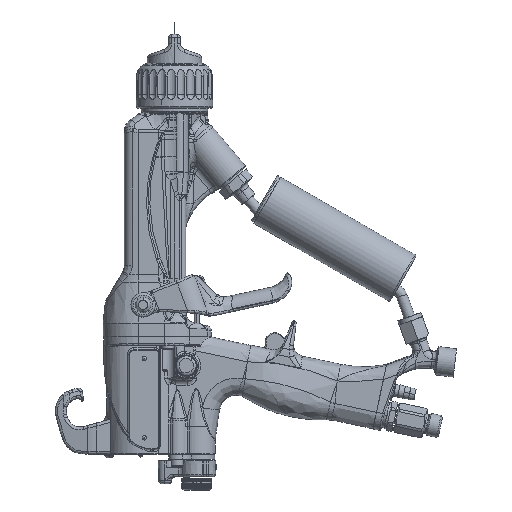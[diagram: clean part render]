
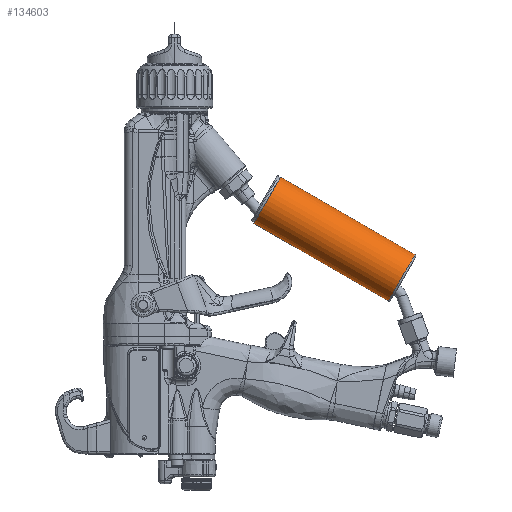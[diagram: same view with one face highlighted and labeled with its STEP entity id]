
A CAD part, left-side view. The second image highlights one B-rep face of the part: STEP entity #134603.
In plain terms, the highlighted cylindrical face has radius 15.494 mm (diameter 30.988 mm), a partial arc.
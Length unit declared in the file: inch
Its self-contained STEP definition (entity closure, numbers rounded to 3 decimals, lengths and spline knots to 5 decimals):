
#134506=CARTESIAN_POINT('',(0.,-5.19582,-4.51354));
#134507=DIRECTION('',(0.,-0.866,-0.5));
#134508=DIRECTION('',(0.,-0.5,0.866));
#134509=AXIS2_PLACEMENT_3D('',#134506,#134507,#134508);
#134511=DIRECTION('',(0.,-0.866,-0.5));
#134512=VECTOR('',#134511,3.55);
#134513=CARTESIAN_POINT('',(0.,-1.81643,-3.26681));
#134514=LINE('',#134513,#134512);
#134515=CARTESIAN_POINT('',(0.,-2.12143,-2.73854));
#134516=DIRECTION('',(0.,-0.866,-0.5));
#134517=DIRECTION('',(0.,-0.5,0.866));
#134518=AXIS2_PLACEMENT_3D('',#134515,#134516,#134517);
#134520=DIRECTION('',(0.,-0.866,-0.5));
#134521=VECTOR('',#134520,3.55);
#134522=CARTESIAN_POINT('',(0.,-2.42643,-2.21026));
#134523=LINE('',#134522,#134521);
#134524=CARTESIAN_POINT('',(0.,-2.42643,-2.21026));
#134525=CARTESIAN_POINT('',(0.,-1.81643,-3.26681));
#134526=VERTEX_POINT('',#134524);
#134527=VERTEX_POINT('',#134525);
#134532=CARTESIAN_POINT('',(0.,-4.89082,-5.04181));
#134533=CARTESIAN_POINT('',(0.,-5.50082,-3.98526));
#134534=VERTEX_POINT('',#134532);
#134535=VERTEX_POINT('',#134533);
#134591=CARTESIAN_POINT('',(0.,-5.38591,-4.62329));
#134592=DIRECTION('',(0.,0.866,0.5));
#134593=DIRECTION('',(0.,0.5,-0.866));
#134594=AXIS2_PLACEMENT_3D('',#134591,#134592,#134593);
#134595=CYLINDRICAL_SURFACE('',#134594,0.61);
#134596=ORIENTED_EDGE('',*,*,#134585,.T.);
#134597=ORIENTED_EDGE('',*,*,#134547,.F.);
#134599=ORIENTED_EDGE('',*,*,#134598,.F.);
#134600=ORIENTED_EDGE('',*,*,#134543,.T.);
#134601=EDGE_LOOP('',(#134596,#134597,#134599,#134600));
#134602=FACE_OUTER_BOUND('',#134601,.F.);
#134603=ADVANCED_FACE('',(#134602),#134595,.T.);
#134510=CIRCLE('',#134509,0.61);
#134519=CIRCLE('',#134518,0.61);
#134543=EDGE_CURVE('',#134526,#134535,#134523,.T.);
#134547=EDGE_CURVE('',#134527,#134534,#134514,.T.);
#134585=EDGE_CURVE('',#134535,#134534,#134510,.T.);
#134598=EDGE_CURVE('',#134526,#134527,#134519,.T.);
